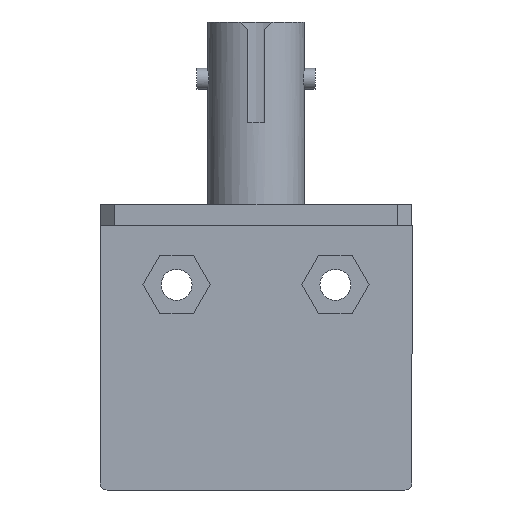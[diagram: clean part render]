
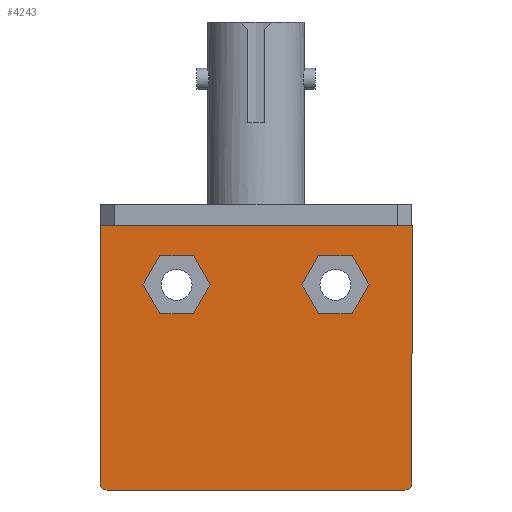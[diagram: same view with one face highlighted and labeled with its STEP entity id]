
A CAD part, front view. The second image highlights one B-rep face of the part: STEP entity #4243.
In plain terms, the highlighted planar face has unit normal (0, -1, 0).
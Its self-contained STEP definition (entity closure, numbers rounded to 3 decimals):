
#15 = VECTOR ( 'NONE', #4943, 1000. ) ;
#30 = AXIS2_PLACEMENT_3D ( 'NONE', #1569, #4585, #1209 ) ;
#56 = VECTOR ( 'NONE', #5066, 1000. ) ;
#119 = LINE ( 'NONE', #5343, #4523 ) ;
#128 = CARTESIAN_POINT ( 'NONE',  ( -3.254, -5.5, 5.2 ) ) ;
#179 = ORIENTED_EDGE ( 'NONE', *, *, #6259, .F. ) ;
#201 = CARTESIAN_POINT ( 'NONE',  ( 4.452, -5.5, 3.125 ) ) ;
#209 = CARTESIAN_POINT ( 'NONE',  ( -4.452, -5.5, 3.125 ) ) ;
#311 = ORIENTED_EDGE ( 'NONE', *, *, #4869, .F. ) ;
#345 = CARTESIAN_POINT ( 'NONE',  ( -8.046, -5.5, 5.2 ) ) ;
#513 = CARTESIAN_POINT ( 'NONE',  ( -3.254, -5.5, 5.2 ) ) ;
#530 = VERTEX_POINT ( 'NONE', #1791 ) ;
#553 = VECTOR ( 'NONE', #4453, 1000. ) ;
#565 = LINE ( 'NONE', #7169, #5614 ) ;
#634 = LINE ( 'NONE', #2153, #15 ) ;
#649 = VECTOR ( 'NONE', #1405, 1000. ) ;
#698 = EDGE_LOOP ( 'NONE', ( #3373, #179, #3846, #6788, #1903, #4175 ) ) ;
#774 = LINE ( 'NONE', #5535, #56 ) ;
#884 = DIRECTION ( 'NONE',  ( 0., -1., 0. ) ) ;
#918 = FACE_OUTER_BOUND ( 'NONE', #6097, .T. ) ;
#927 = LINE ( 'NONE', #2584, #1289 ) ;
#949 = VERTEX_POINT ( 'NONE', #3100 ) ;
#988 = VERTEX_POINT ( 'NONE', #209 ) ;
#1071 = DIRECTION ( 'NONE',  ( 0.5, 0., -0.866 ) ) ;
#1118 = CARTESIAN_POINT ( 'NONE',  ( -10.6, -5.5, -9.4 ) ) ;
#1209 = DIRECTION ( 'NONE',  ( 0., 0., 1. ) ) ;
#1289 = VECTOR ( 'NONE', #5916, 1000. ) ;
#1378 = LINE ( 'NONE', #3540, #649 ) ;
#1405 = DIRECTION ( 'NONE',  ( -1., 0., 0. ) ) ;
#1457 = DIRECTION ( 'NONE',  ( 1., 0., 0. ) ) ;
#1478 = FACE_BOUND ( 'NONE', #698, .T. ) ;
#1505 = CARTESIAN_POINT ( 'NONE',  ( -10.6, -5.5, -8.9 ) ) ;
#1569 = CARTESIAN_POINT ( 'NONE',  ( 0., -5.5, 0. ) ) ;
#1583 = EDGE_CURVE ( 'NONE', #6407, #988, #119, .T. ) ;
#1612 = EDGE_CURVE ( 'NONE', #6273, #2871, #1806, .T. ) ;
#1640 = FACE_BOUND ( 'NONE', #1818, .T. ) ;
#1659 = EDGE_CURVE ( 'NONE', #5070, #6407, #2166, .T. ) ;
#1707 = LINE ( 'NONE', #3247, #6217 ) ;
#1779 = VERTEX_POINT ( 'NONE', #513 ) ;
#1782 = CARTESIAN_POINT ( 'NONE',  ( -6.848, -5.5, 3.125 ) ) ;
#1791 = CARTESIAN_POINT ( 'NONE',  ( -11.1, -5.5, 9.4 ) ) ;
#1806 = LINE ( 'NONE', #201, #7184 ) ;
#1811 = CARTESIAN_POINT ( 'NONE',  ( 11.1, -5.5, 9.4 ) ) ;
#1818 = EDGE_LOOP ( 'NONE', ( #5748, #3225, #4263, #2228, #2525, #3881 ) ) ;
#1903 = ORIENTED_EDGE ( 'NONE', *, *, #5364, .F. ) ;
#1904 = CARTESIAN_POINT ( 'NONE',  ( -11.1, -5.5, -8.9 ) ) ;
#1959 = DIRECTION ( 'NONE',  ( 0.5, 0., 0.866 ) ) ;
#2049 = VERTEX_POINT ( 'NONE', #6049 ) ;
#2153 = CARTESIAN_POINT ( 'NONE',  ( 11.1, -5.5, -9.4 ) ) ;
#2166 = LINE ( 'NONE', #345, #5228 ) ;
#2228 = ORIENTED_EDGE ( 'NONE', *, *, #1659, .F. ) ;
#2350 = VECTOR ( 'NONE', #2817, 1000. ) ;
#2480 = AXIS2_PLACEMENT_3D ( 'NONE', #7062, #884, #5976 ) ;
#2488 = VECTOR ( 'NONE', #5693, 1000. ) ;
#2525 = ORIENTED_EDGE ( 'NONE', *, *, #6626, .F. ) ;
#2577 = CARTESIAN_POINT ( 'NONE',  ( -4.452, -5.5, 3.125 ) ) ;
#2584 = CARTESIAN_POINT ( 'NONE',  ( 6.848, -5.5, 3.125 ) ) ;
#2602 = EDGE_CURVE ( 'NONE', #3053, #5478, #4103, .T. ) ;
#2659 = DIRECTION ( 'NONE',  ( 0., -1., 0. ) ) ;
#2717 = VECTOR ( 'NONE', #5414, 1000. ) ;
#2817 = DIRECTION ( 'NONE',  ( 0., 0., 1. ) ) ;
#2832 = CARTESIAN_POINT ( 'NONE',  ( -11.1, -5.5, -9.4 ) ) ;
#2871 = VERTEX_POINT ( 'NONE', #3077 ) ;
#2886 = LINE ( 'NONE', #4846, #2717 ) ;
#2968 = EDGE_CURVE ( 'NONE', #949, #6183, #1378, .T. ) ;
#2980 = CARTESIAN_POINT ( 'NONE',  ( -8.046, -5.5, 5.2 ) ) ;
#3053 = VERTEX_POINT ( 'NONE', #6298 ) ;
#3077 = CARTESIAN_POINT ( 'NONE',  ( 6.848, -5.5, 3.125 ) ) ;
#3100 = CARTESIAN_POINT ( 'NONE',  ( 6.848, -5.5, 7.275 ) ) ;
#3219 = DIRECTION ( 'NONE',  ( 0., 0., 1. ) ) ;
#3225 = ORIENTED_EDGE ( 'NONE', *, *, #6507, .F. ) ;
#3247 = CARTESIAN_POINT ( 'NONE',  ( -11.1, -5.5, 9.4 ) ) ;
#3357 = ORIENTED_EDGE ( 'NONE', *, *, #5887, .T. ) ;
#3363 = VERTEX_POINT ( 'NONE', #7027 ) ;
#3373 = ORIENTED_EDGE ( 'NONE', *, *, #6046, .F. ) ;
#3430 = CARTESIAN_POINT ( 'NONE',  ( 4.452, -5.5, 3.125 ) ) ;
#3460 = CIRCLE ( 'NONE', #4905, 0.5 ) ;
#3540 = CARTESIAN_POINT ( 'NONE',  ( 6.848, -5.5, 7.275 ) ) ;
#3556 = LINE ( 'NONE', #2832, #553 ) ;
#3642 = CARTESIAN_POINT ( 'NONE',  ( -6.848, -5.5, 7.275 ) ) ;
#3698 = VERTEX_POINT ( 'NONE', #1118 ) ;
#3833 = LINE ( 'NONE', #5001, #2350 ) ;
#3844 = DIRECTION ( 'NONE',  ( -1., 0., 0. ) ) ;
#3846 = ORIENTED_EDGE ( 'NONE', *, *, #2968, .F. ) ;
#3866 = EDGE_CURVE ( 'NONE', #1779, #3053, #4812, .T. ) ;
#3881 = ORIENTED_EDGE ( 'NONE', *, *, #2602, .F. ) ;
#3982 = EDGE_CURVE ( 'NONE', #530, #5862, #1707, .T. ) ;
#4031 = EDGE_CURVE ( 'NONE', #4336, #3698, #3460, .T. ) ;
#4068 = ORIENTED_EDGE ( 'NONE', *, *, #5615, .F. ) ;
#4103 = LINE ( 'NONE', #7297, #4914 ) ;
#4175 = ORIENTED_EDGE ( 'NONE', *, *, #1612, .F. ) ;
#4243 = ADVANCED_FACE ( 'NONE', ( #1640, #1478, #918 ), #4369, .F. ) ;
#4263 = ORIENTED_EDGE ( 'NONE', *, *, #1583, .F. ) ;
#4275 = VERTEX_POINT ( 'NONE', #5275 ) ;
#4336 = VERTEX_POINT ( 'NONE', #1904 ) ;
#4367 = VERTEX_POINT ( 'NONE', #6413 ) ;
#4369 = PLANE ( 'NONE',  #30 ) ;
#4453 = DIRECTION ( 'NONE',  ( -1., 0., 0. ) ) ;
#4469 = CIRCLE ( 'NONE', #2480, 0.5 ) ;
#4523 = VECTOR ( 'NONE', #1457, 1000. ) ;
#4556 = CARTESIAN_POINT ( 'NONE',  ( 4.452, -5.5, 7.275 ) ) ;
#4585 = DIRECTION ( 'NONE',  ( 0., 1., 0. ) ) ;
#4587 = EDGE_CURVE ( 'NONE', #2049, #3698, #3556, .T. ) ;
#4680 = ORIENTED_EDGE ( 'NONE', *, *, #3982, .F. ) ;
#4717 = LINE ( 'NONE', #2577, #4909 ) ;
#4812 = LINE ( 'NONE', #128, #7096 ) ;
#4846 = CARTESIAN_POINT ( 'NONE',  ( -6.848, -5.5, 7.275 ) ) ;
#4869 = EDGE_CURVE ( 'NONE', #5862, #4367, #634, .T. ) ;
#4905 = AXIS2_PLACEMENT_3D ( 'NONE', #1505, #2659, #3219 ) ;
#4909 = VECTOR ( 'NONE', #1959, 1000. ) ;
#4914 = VECTOR ( 'NONE', #3844, 1000. ) ;
#4943 = DIRECTION ( 'NONE',  ( 0., 0., -1. ) ) ;
#5001 = CARTESIAN_POINT ( 'NONE',  ( -11.1, -5.5, -9.4 ) ) ;
#5066 = DIRECTION ( 'NONE',  ( 0.5, 0., -0.866 ) ) ;
#5070 = VERTEX_POINT ( 'NONE', #2980 ) ;
#5207 = DIRECTION ( 'NONE',  ( -0.5, 0., 0.866 ) ) ;
#5228 = VECTOR ( 'NONE', #1071, 1000. ) ;
#5275 = CARTESIAN_POINT ( 'NONE',  ( 8.046, -5.5, 5.2 ) ) ;
#5343 = CARTESIAN_POINT ( 'NONE',  ( -6.848, -5.5, 3.125 ) ) ;
#5364 = EDGE_CURVE ( 'NONE', #2871, #4275, #927, .T. ) ;
#5414 = DIRECTION ( 'NONE',  ( -0.5, 0., -0.866 ) ) ;
#5472 = DIRECTION ( 'NONE',  ( 1., 0., 0. ) ) ;
#5478 = VERTEX_POINT ( 'NONE', #3642 ) ;
#5479 = LINE ( 'NONE', #4556, #2488 ) ;
#5535 = CARTESIAN_POINT ( 'NONE',  ( 3.254, -5.5, 5.2 ) ) ;
#5574 = ORIENTED_EDGE ( 'NONE', *, *, #4031, .T. ) ;
#5614 = VECTOR ( 'NONE', #7144, 1000. ) ;
#5615 = EDGE_CURVE ( 'NONE', #4336, #530, #3833, .T. ) ;
#5693 = DIRECTION ( 'NONE',  ( -0.5, 0., -0.866 ) ) ;
#5748 = ORIENTED_EDGE ( 'NONE', *, *, #3866, .F. ) ;
#5862 = VERTEX_POINT ( 'NONE', #1811 ) ;
#5887 = EDGE_CURVE ( 'NONE', #2049, #4367, #4469, .T. ) ;
#5916 = DIRECTION ( 'NONE',  ( 0.5, 0., 0.866 ) ) ;
#5976 = DIRECTION ( 'NONE',  ( 0., 0., 1. ) ) ;
#6046 = EDGE_CURVE ( 'NONE', #3363, #6273, #774, .T. ) ;
#6049 = CARTESIAN_POINT ( 'NONE',  ( 10.6, -5.5, -9.4 ) ) ;
#6097 = EDGE_LOOP ( 'NONE', ( #4068, #5574, #6890, #3357, #311, #4680 ) ) ;
#6183 = VERTEX_POINT ( 'NONE', #6842 ) ;
#6217 = VECTOR ( 'NONE', #5472, 1000. ) ;
#6259 = EDGE_CURVE ( 'NONE', #6183, #3363, #5479, .T. ) ;
#6273 = VERTEX_POINT ( 'NONE', #3430 ) ;
#6298 = CARTESIAN_POINT ( 'NONE',  ( -4.452, -5.5, 7.275 ) ) ;
#6407 = VERTEX_POINT ( 'NONE', #1782 ) ;
#6413 = CARTESIAN_POINT ( 'NONE',  ( 11.1, -5.5, -8.9 ) ) ;
#6507 = EDGE_CURVE ( 'NONE', #988, #1779, #4717, .T. ) ;
#6626 = EDGE_CURVE ( 'NONE', #5478, #5070, #2886, .T. ) ;
#6788 = ORIENTED_EDGE ( 'NONE', *, *, #7007, .F. ) ;
#6842 = CARTESIAN_POINT ( 'NONE',  ( 4.452, -5.5, 7.275 ) ) ;
#6890 = ORIENTED_EDGE ( 'NONE', *, *, #4587, .F. ) ;
#7007 = EDGE_CURVE ( 'NONE', #4275, #949, #565, .T. ) ;
#7020 = DIRECTION ( 'NONE',  ( 1., 0., 0. ) ) ;
#7027 = CARTESIAN_POINT ( 'NONE',  ( 3.254, -5.5, 5.2 ) ) ;
#7062 = CARTESIAN_POINT ( 'NONE',  ( 10.6, -5.5, -8.9 ) ) ;
#7096 = VECTOR ( 'NONE', #5207, 1000. ) ;
#7144 = DIRECTION ( 'NONE',  ( -0.5, 0., 0.866 ) ) ;
#7169 = CARTESIAN_POINT ( 'NONE',  ( 8.046, -5.5, 5.2 ) ) ;
#7184 = VECTOR ( 'NONE', #7020, 1000. ) ;
#7297 = CARTESIAN_POINT ( 'NONE',  ( -4.452, -5.5, 7.275 ) ) ;
